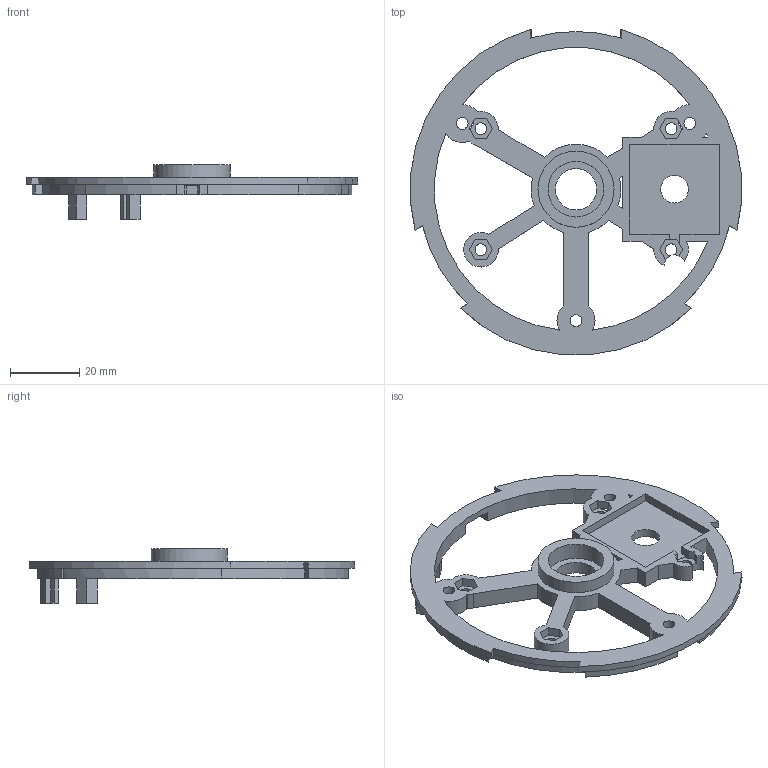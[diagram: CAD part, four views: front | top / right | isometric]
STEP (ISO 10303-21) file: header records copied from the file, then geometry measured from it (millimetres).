
FILE_DESCRIPTION(('Open CASCADE Model'),'2;1');
FILE_NAME('Open CASCADE Shape Model','2026-11-11T19:28:18',('Author'),( 'Open CASCADE'),'Open CASCADE STEP processor 7.9','Open CASCADE 7.9' ,'Unknown');
FILE_SCHEMA(('AUTOMOTIVE_DESIGN { 1 0 10303 214 1 1 1 1 }'));
Length unit declared in the file: millimetre
Products named in the file (1): Open CASCADE STEP translator 7.9 8
Bounding box: 95.72 x 94.03 x 15.9 mm (x, y, z)
Volume: 15357.3 mm3; surface area: 13220.3 mm2
Topology: 1 solids, 1 shells, 169 faces, 492 edges, 328 vertices
Faces by surface type: plane 120, cylinder 49
Full cylindrical faces by diameter (mm): 3.4 x6, 8 x1, 12 x1, 16.1 x1, 22 x1
Entity records: 12393 total; most frequent: CARTESIAN_POINT 2610, DIRECTION 1837, LINE 1190, VECTOR 1190, ORIENTED_EDGE 984, PCURVE 984, DEFINITIONAL_REPRESENTATION 984, EDGE_CURVE 492
